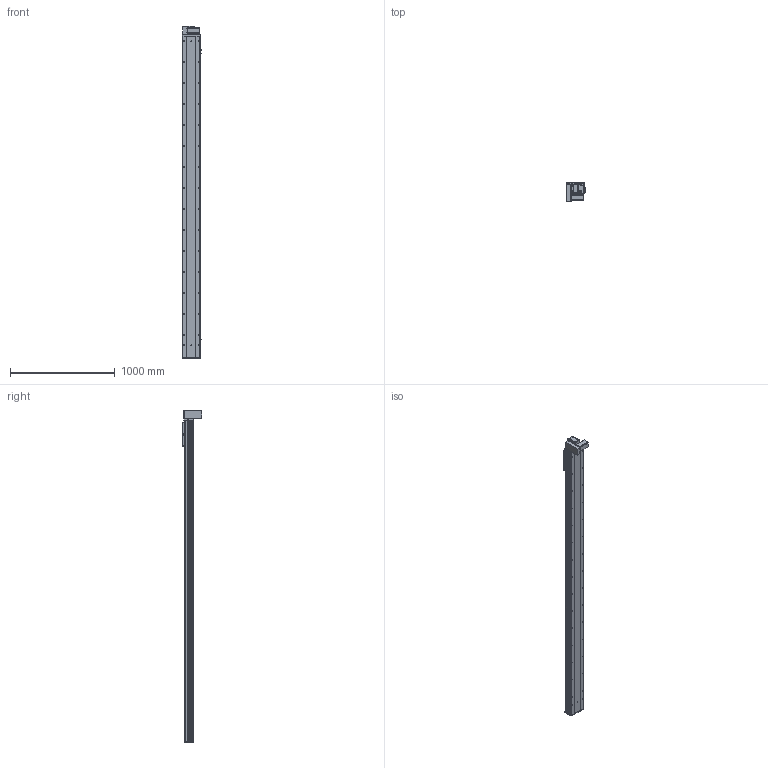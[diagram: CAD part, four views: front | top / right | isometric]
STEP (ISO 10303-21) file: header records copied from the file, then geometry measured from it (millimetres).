
FILE_DESCRIPTION (( 'STEP AP203' ), '1' );
FILE_NAME ('Y170CB-D105-S2750-BM-P400W.STEP', '2020-02-20T07:49:24', ( '微软用户' ), ( '微软中国' ), 'SwSTEP 2.0', 'SolidWorks 2017', '' );
FILE_SCHEMA (( 'CONFIG_CONTROL_DESIGN' ));
Length unit declared in the file: millimetre
Products named in the file (18): 17B-耜蚾蟀諉啣----; 70C--詩湍揤踡え-; 00B-俋欶BM--163; 70CB--耜裔; 70B喘謫眊----; 70C-雄赽釱-奻-; B-源倛裔啣; Y170CB-D105-S2750-BM-P400W; 0C--雄赽釱俋欶-170; 0B-萇儂楊擘啣; 70CB-詩湍--; san松下电机400不带刹车----; Y100-135俋离換覜ん--; 70CB-掛极-; Y170CB-陔俋离換覜結え---; --70CB --喘謫眊楊擘啣-; Y1埴倛裔; 70CB-耜裔啣-
Assembly tree (21 placements, depth 2):
  Y170CB-D105-S2750-BM-P400W
    B-源倛裔啣
    0B-萇儂楊擘啣
    san松下电机400不带刹车----
    70CB-掛极-
    --70CB --喘謫眊楊擘啣-
    70CB-耜裔啣-  x2
    70C--詩湍揤踡え-  x2
    70CB--耜裔
    70C-雄赽釱-奻-
    0C--雄赽釱俋欶-170
    70CB-詩湍--
    Y100-135俋离換覜ん--  x3
    Y170CB-陔俋离換覜結え---
    Y1埴倛裔
    17B-耜蚾蟀諉啣----
    00B-俋欶BM--163
    70B喘謫眊----
Bounding box: 183.5 x 184 x 3166 mm (x, y, z)
Volume: 13429582.8 mm3; surface area: 4852725.8 mm2
Topology: 21 solids, 21 shells, 1079 faces, 2909 edges, 1930 vertices
Faces by surface type: cylinder 593, plane 462, cone 24
Entity records: 34664 total; most frequent: CARTESIAN_POINT 6396, DIRECTION 5642, ORIENTED_EDGE 5300, EDGE_CURVE 2650, AXIS2_PLACEMENT_3D 2088, VERTEX_POINT 1760, VECTOR 1466, LINE 1466
